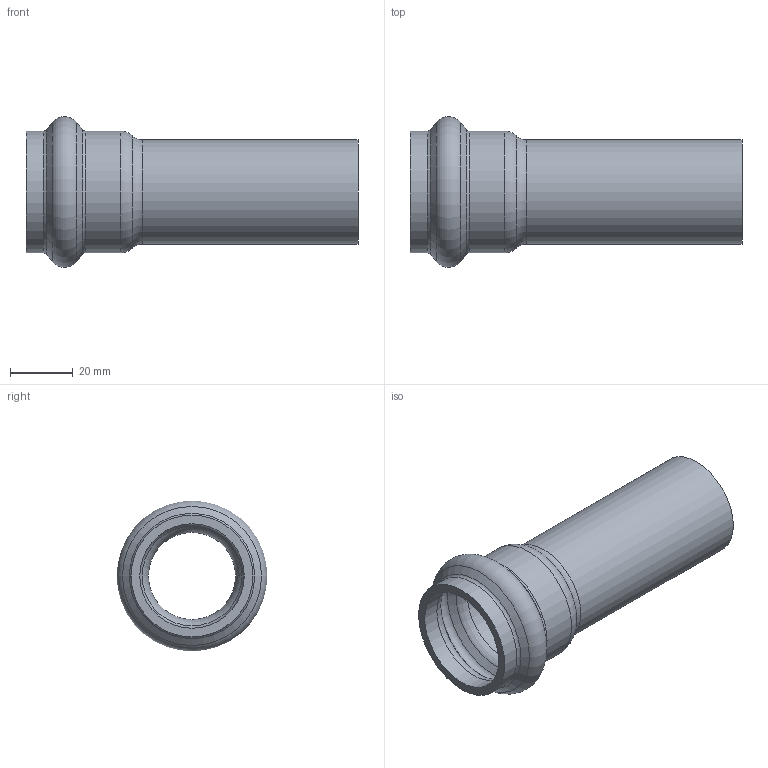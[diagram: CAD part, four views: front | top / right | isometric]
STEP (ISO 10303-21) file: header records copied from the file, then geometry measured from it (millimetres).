
FILE_DESCRIPTION(/* description */ ('VIC WELD ADAPTER STYLE P561 (P X T)','CAx-IF Rec.Pracs.---Representation and Presentation of Product Manufacturing Information (PMI)---4.0---2014-10-13'),/* implementation_level */ '2;1');
FILE_NAME(/* name */ 'C:\Users\Vjadhav\AppData\Roaming\Autodesk\ApplicationPlugins\Back Up\Victaulic_SS-Vic-Press-TP 304_Adapter Weld_Style P561 (VPxPE)\Victaulic_SS-Vic-Press-TP 304_Adapter Weld_Style P561 (VPxPE)_1 (25).stp',/* time_stamp */ '2020-08-12T15:21:23+06:00',/* author */ ('cgray'),/* organization */ ('Victaulic'),/* preprocessor_version */ 'ST-DEVELOPER v17.2',/* originating_system */ 'Autodesk Inventor 2019',/* authorisation */ '');
FILE_SCHEMA (('AP242_MANAGED_MODEL_BASED_3D_ENGINEERING_MIM_LF { 1 0 10303 442 1 1 4 }'));
Length unit declared in the file: inch
Products named in the file (1): P561-01.0
Bounding box: 106.17 x 48.13 x 48.13 mm (x, y, z)
Volume: 31941.9 mm3; surface area: 23655.4 mm2
Topology: 1 solids, 1 shells, 22 faces, 80 edges, 60 vertices
Faces by surface type: torus 10, cylinder 6, cone 4, plane 2
Full cylindrical faces by diameter (mm): 27.864 x1, 33.401 x3, 38.938 x2
Entity records: 1092 total; most frequent: DIRECTION 222, CARTESIAN_POINT 180, ORIENTED_EDGE 160, AXIS2_PLACEMENT_3D 106, EDGE_CURVE 80, CIRCLE 70, VERTEX_POINT 60, EDGE_LOOP 24
